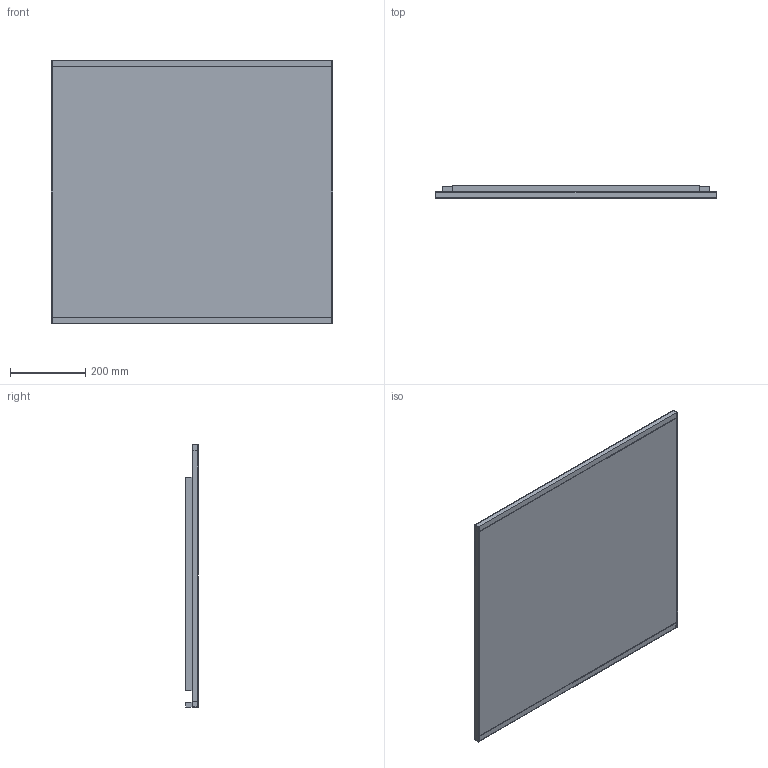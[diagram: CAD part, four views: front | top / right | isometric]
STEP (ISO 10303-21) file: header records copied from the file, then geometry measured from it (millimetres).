
FILE_DESCRIPTION(/* description */ (''),/* implementation_level */ '2;1');
FILE_NAME(/* name */ 'C:\Planerdaten\Export PLA\502.782.00.1\stp\502782.stp',/* time_stamp */ '2022-12-02T15:04:24+01:00',/* author */ ('JANAN'),/* organization */ (''),/* preprocessor_version */ 'ST-DEVELOPER v18.1',/* originating_system */ 'Autodesk Inventor 2021',/* authorisation */ '');
FILE_SCHEMA (('AUTOMOTIVE_DESIGN { 1 0 10303 214 3 1 1 }'));
Length unit declared in the file: millimetre
Products named in the file (1): tmp56B2.tmp
Bounding box: 750 x 32 x 700 mm (x, y, z)
Volume: 13896596 mm3; surface area: 2324481 mm2
Topology: 4 solids, 4 shells, 63 faces, 154 edges, 104 vertices
Faces by surface type: plane 59, cylinder 4
Full cylindrical faces by diameter (mm): 8 x4
Entity records: 1959 total; most frequent: CARTESIAN_POINT 322, ORIENTED_EDGE 308, DIRECTION 298, EDGE_CURVE 154, LINE 138, VECTOR 138, VERTEX_POINT 104, AXIS2_PLACEMENT_3D 80
